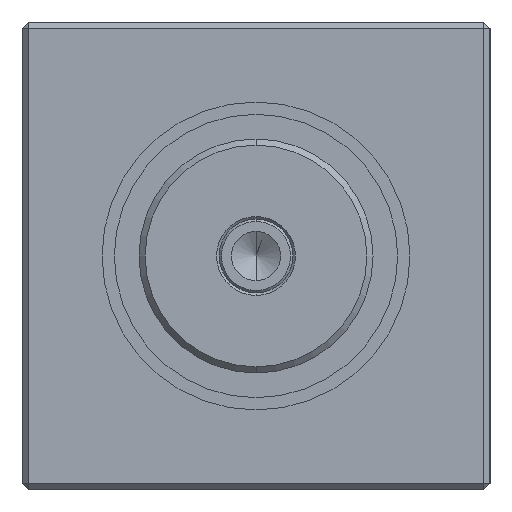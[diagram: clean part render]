
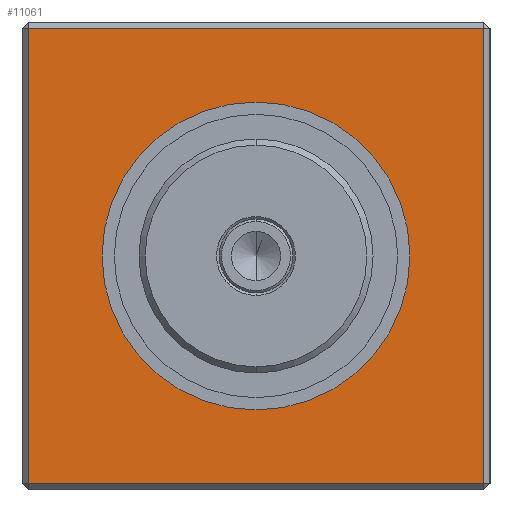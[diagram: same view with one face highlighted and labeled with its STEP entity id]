
A CAD part, left-side view. The second image highlights one B-rep face of the part: STEP entity #11061.
In plain terms, the highlighted planar face has unit normal (-1, 0, 0).
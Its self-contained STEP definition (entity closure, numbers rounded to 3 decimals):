
#9179 = EDGE_LOOP ( 'NONE', ( #9232, #9234 ) ) ;
#9180 = EDGE_LOOP ( 'NONE', ( #9501, #9503, #9502, #9504 ) ) ;
#9232 = ORIENTED_EDGE ( 'NONE', *, *, #10436, .F. ) ;
#9234 = ORIENTED_EDGE ( 'NONE', *, *, #10947, .F. ) ;
#9501 = ORIENTED_EDGE ( 'NONE', *, *, #10823, .T. ) ;
#9502 = ORIENTED_EDGE ( 'NONE', *, *, #10824, .T. ) ;
#9503 = ORIENTED_EDGE ( 'NONE', *, *, #10822, .T. ) ;
#9504 = ORIENTED_EDGE ( 'NONE', *, *, #10435, .T. ) ;
#10435 = EDGE_CURVE ( 'NONE', #13260, #13257, #30337, .T. ) ;
#10436 = EDGE_CURVE ( 'NONE', #13155, #13154, #27399, .T. ) ;
#10822 = EDGE_CURVE ( 'NONE', #13258, #13259, #32829, .T. ) ;
#10823 = EDGE_CURVE ( 'NONE', #13257, #13258, #32832, .T. ) ;
#10824 = EDGE_CURVE ( 'NONE', #13259, #13260, #32835, .T. ) ;
#10947 = EDGE_CURVE ( 'NONE', #13154, #13155, #27490, .T. ) ;
#11061 = ADVANCED_FACE ( 'NONE', ( #31685, #31690 ), #34139, .F. ) ;
#13154 = VERTEX_POINT ( 'NONE', #35742 ) ;
#13155 = VERTEX_POINT ( 'NONE', #35743 ) ;
#13257 = VERTEX_POINT ( 'NONE', #35845 ) ;
#13258 = VERTEX_POINT ( 'NONE', #35846 ) ;
#13259 = VERTEX_POINT ( 'NONE', #35847 ) ;
#13260 = VERTEX_POINT ( 'NONE', #35848 ) ;
#27399 = CIRCLE ( 'NONE', #29479, 12.5 ) ;
#27490 = CIRCLE ( 'NONE', #31457, 12.5 ) ;
#29479 = AXIS2_PLACEMENT_3D ( 'NONE', #30340, #30341, #30342 ) ;
#29481 = VECTOR ( 'NONE', #30339, 1000. ) ;
#30337 = LINE ( 'NONE', #30338, #29481 ) ;
#30338 = CARTESIAN_POINT ( 'NONE',  ( 0., 18.5, 19. ) ) ;
#30339 = DIRECTION ( 'NONE',  ( 0., 0., -1. ) ) ;
#30340 = CARTESIAN_POINT ( 'NONE',  ( 0., 0., 0. ) ) ;
#30341 = DIRECTION ( 'NONE',  ( -1., 0., 0. ) ) ;
#30342 = DIRECTION ( 'NONE',  ( 0., -1., 0. ) ) ;
#31347 = VECTOR ( 'NONE', #32831, 1000. ) ;
#31348 = VECTOR ( 'NONE', #32834, 1000. ) ;
#31349 = VECTOR ( 'NONE', #32837, 1000. ) ;
#31457 = AXIS2_PLACEMENT_3D ( 'NONE', #33354, #33355, #33356 ) ;
#31685 = FACE_OUTER_BOUND ( 'NONE', #9180, .T. ) ;
#31690 = FACE_BOUND ( 'NONE', #9179, .T. ) ;
#31692 = AXIS2_PLACEMENT_3D ( 'NONE', #34140, #34141, #34142 ) ;
#32829 = LINE ( 'NONE', #32830, #31347 ) ;
#32830 = CARTESIAN_POINT ( 'NONE',  ( 0., -18.5, 19. ) ) ;
#32831 = DIRECTION ( 'NONE',  ( 0., 0., 1. ) ) ;
#32832 = LINE ( 'NONE', #32833, #31348 ) ;
#32833 = CARTESIAN_POINT ( 'NONE',  ( 0., -19., -18.5 ) ) ;
#32834 = DIRECTION ( 'NONE',  ( 0., -1., 0. ) ) ;
#32835 = LINE ( 'NONE', #32836, #31349 ) ;
#32836 = CARTESIAN_POINT ( 'NONE',  ( 0., -19., 18.5 ) ) ;
#32837 = DIRECTION ( 'NONE',  ( 0., 1., 0. ) ) ;
#33354 = CARTESIAN_POINT ( 'NONE',  ( 0., 0., 0. ) ) ;
#33355 = DIRECTION ( 'NONE',  ( -1., 0., 0. ) ) ;
#33356 = DIRECTION ( 'NONE',  ( 0., -1., 0. ) ) ;
#34139 = PLANE ( 'NONE',  #31692 ) ;
#34140 = CARTESIAN_POINT ( 'NONE',  ( 0., -19., 19. ) ) ;
#34141 = DIRECTION ( 'NONE',  ( 1., 0., 0. ) ) ;
#34142 = DIRECTION ( 'NONE',  ( 0., 0., -1. ) ) ;
#35742 = CARTESIAN_POINT ( 'NONE',  ( 0., 12.5, 0. ) ) ;
#35743 = CARTESIAN_POINT ( 'NONE',  ( 0., -12.5, 0. ) ) ;
#35845 = CARTESIAN_POINT ( 'NONE',  ( 0., 18.5, -18.5 ) ) ;
#35846 = CARTESIAN_POINT ( 'NONE',  ( 0., -18.5, -18.5 ) ) ;
#35847 = CARTESIAN_POINT ( 'NONE',  ( 0., -18.5, 18.5 ) ) ;
#35848 = CARTESIAN_POINT ( 'NONE',  ( 0., 18.5, 18.5 ) ) ;
